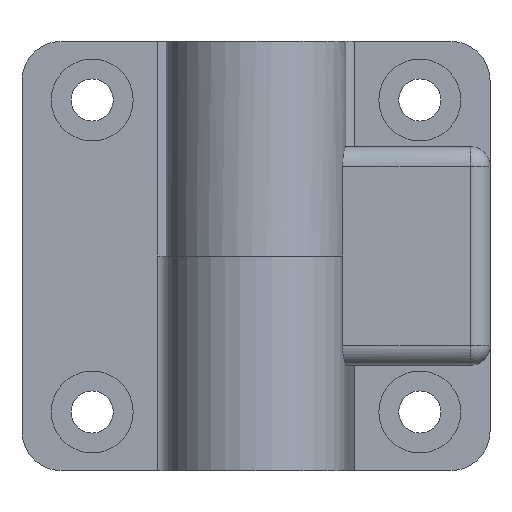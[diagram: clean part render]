
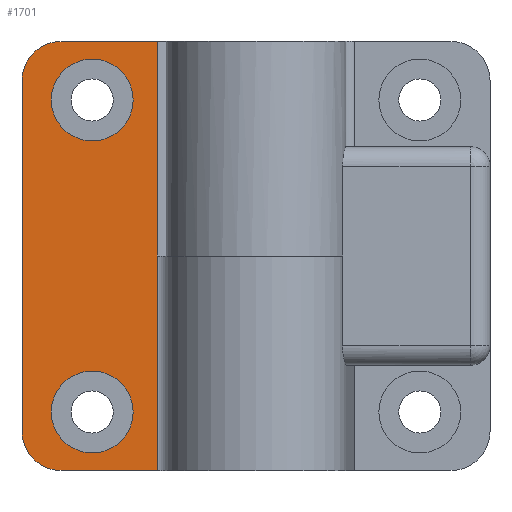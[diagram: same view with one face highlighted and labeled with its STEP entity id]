
A CAD part, front view. The second image highlights one B-rep face of the part: STEP entity #1701.
In plain terms, the highlighted planar face has unit normal (0, -1, 0).
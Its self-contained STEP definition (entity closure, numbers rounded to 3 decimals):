
#7 = EDGE_CURVE ( 'NONE', #1222, #2345, #1300, .T. ) ;
#22 = AXIS2_PLACEMENT_3D ( 'NONE', #2692, #2479, #622 ) ;
#64 = CIRCLE ( 'NONE', #2221, 5.25 ) ;
#89 = ORIENTED_EDGE ( 'NONE', *, *, #7, .T. ) ;
#97 = CARTESIAN_POINT ( 'NONE',  ( 21., 4.5, 14.75 ) ) ;
#145 = DIRECTION ( 'NONE',  ( 0., -1., 0. ) ) ;
#205 = CARTESIAN_POINT ( 'NONE',  ( 30., 4.5, -22.5 ) ) ;
#232 = CARTESIAN_POINT ( 'NONE',  ( 25., 4.5, 22.5 ) ) ;
#247 = DIRECTION ( 'NONE',  ( 0., 0., -1. ) ) ;
#296 = EDGE_CURVE ( 'NONE', #866, #1968, #2077, .T. ) ;
#298 = DIRECTION ( 'NONE',  ( 1., 0., 0. ) ) ;
#366 = DIRECTION ( 'NONE',  ( 0., 0., -1. ) ) ;
#371 = ORIENTED_EDGE ( 'NONE', *, *, #1317, .F. ) ;
#391 = EDGE_CURVE ( 'NONE', #866, #1243, #730, .T. ) ;
#447 = CIRCLE ( 'NONE', #2758, 5.25 ) ;
#457 = DIRECTION ( 'NONE',  ( 0., 0., 1. ) ) ;
#510 = VECTOR ( 'NONE', #2600, 1000. ) ;
#573 = PLANE ( 'NONE',  #22 ) ;
#583 = VERTEX_POINT ( 'NONE', #2508 ) ;
#622 = DIRECTION ( 'NONE',  ( 0., 0., 1. ) ) ;
#642 = DIRECTION ( 'NONE',  ( 0., -1., 0. ) ) ;
#650 = ORIENTED_EDGE ( 'NONE', *, *, #871, .T. ) ;
#678 = CARTESIAN_POINT ( 'NONE',  ( 21., 4.5, -20. ) ) ;
#698 = ORIENTED_EDGE ( 'NONE', *, *, #1369, .F. ) ;
#730 = LINE ( 'NONE', #760, #510 ) ;
#751 = VECTOR ( 'NONE', #366, 1000. ) ;
#760 = CARTESIAN_POINT ( 'NONE',  ( 30., 4.5, 27.5 ) ) ;
#763 = ORIENTED_EDGE ( 'NONE', *, *, #2235, .T. ) ;
#794 = FACE_BOUND ( 'NONE', #2683, .T. ) ;
#827 = CARTESIAN_POINT ( 'NONE',  ( 30., 4.5, 22.5 ) ) ;
#861 = AXIS2_PLACEMENT_3D ( 'NONE', #2732, #642, #1598 ) ;
#866 = VERTEX_POINT ( 'NONE', #827 ) ;
#871 = EDGE_CURVE ( 'NONE', #2345, #1406, #1972, .T. ) ;
#959 = DIRECTION ( 'NONE',  ( 0., -1., 0. ) ) ;
#1082 = DIRECTION ( 'NONE',  ( 0., -1., 0. ) ) ;
#1118 = ORIENTED_EDGE ( 'NONE', *, *, #1470, .F. ) ;
#1192 = AXIS2_PLACEMENT_3D ( 'NONE', #3013, #959, #247 ) ;
#1222 = VERTEX_POINT ( 'NONE', #2857 ) ;
#1243 = VERTEX_POINT ( 'NONE', #205 ) ;
#1250 = ORIENTED_EDGE ( 'NONE', *, *, #391, .F. ) ;
#1257 = CARTESIAN_POINT ( 'NONE',  ( 21., 4.5, 20. ) ) ;
#1266 = EDGE_LOOP ( 'NONE', ( #1250, #1552, #2606, #763, #89, #650, #1411 ) ) ;
#1276 = VERTEX_POINT ( 'NONE', #97 ) ;
#1299 = LINE ( 'NONE', #2673, #751 ) ;
#1300 = LINE ( 'NONE', #1961, #2957 ) ;
#1317 = EDGE_CURVE ( 'NONE', #583, #1276, #447, .T. ) ;
#1369 = EDGE_CURVE ( 'NONE', #2921, #2067, #2111, .T. ) ;
#1380 = CARTESIAN_POINT ( 'NONE',  ( 21., 4.5, -14.75 ) ) ;
#1406 = VERTEX_POINT ( 'NONE', #1751 ) ;
#1411 = ORIENTED_EDGE ( 'NONE', *, *, #2752, .T. ) ;
#1470 = EDGE_CURVE ( 'NONE', #2067, #2921, #64, .T. ) ;
#1525 = LINE ( 'NONE', #2184, #2112 ) ;
#1552 = ORIENTED_EDGE ( 'NONE', *, *, #296, .T. ) ;
#1598 = DIRECTION ( 'NONE',  ( 0., 0., 1. ) ) ;
#1606 = DIRECTION ( 'NONE',  ( 0., 0., -1. ) ) ;
#1687 = CARTESIAN_POINT ( 'NONE',  ( 30., 4.5, -27.5 ) ) ;
#1701 = ADVANCED_FACE ( 'NONE', ( #1979, #794, #1781 ), #573, .F. ) ;
#1751 = CARTESIAN_POINT ( 'NONE',  ( 25., 4.5, -27.5 ) ) ;
#1781 = FACE_OUTER_BOUND ( 'NONE', #1266, .T. ) ;
#1846 = DIRECTION ( 'NONE',  ( 0., -1., 0. ) ) ;
#1867 = DIRECTION ( 'NONE',  ( 0., -1., 0. ) ) ;
#1961 = CARTESIAN_POINT ( 'NONE',  ( 12.649, 4.5, 0. ) ) ;
#1968 = VERTEX_POINT ( 'NONE', #2779 ) ;
#1972 = LINE ( 'NONE', #1687, #2595 ) ;
#1979 = FACE_BOUND ( 'NONE', #2716, .T. ) ;
#2012 = DIRECTION ( 'NONE',  ( 0., 0., -1. ) ) ;
#2034 = CARTESIAN_POINT ( 'NONE',  ( 12.649, 4.5, -27.5 ) ) ;
#2067 = VERTEX_POINT ( 'NONE', #2567 ) ;
#2077 = CIRCLE ( 'NONE', #2806, 5. ) ;
#2111 = CIRCLE ( 'NONE', #2994, 5.25 ) ;
#2112 = VECTOR ( 'NONE', #2685, 1000. ) ;
#2184 = CARTESIAN_POINT ( 'NONE',  ( 30., 4.5, 27.5 ) ) ;
#2195 = DIRECTION ( 'NONE',  ( 0., 0., -1. ) ) ;
#2221 = AXIS2_PLACEMENT_3D ( 'NONE', #678, #1867, #1606 ) ;
#2235 = EDGE_CURVE ( 'NONE', #2671, #1222, #1299, .T. ) ;
#2239 = DIRECTION ( 'NONE',  ( 0., 0., -1. ) ) ;
#2345 = VERTEX_POINT ( 'NONE', #2034 ) ;
#2417 = CIRCLE ( 'NONE', #861, 5. ) ;
#2427 = CARTESIAN_POINT ( 'NONE',  ( 12.649, 4.5, 27.5 ) ) ;
#2479 = DIRECTION ( 'NONE',  ( 0., 1., 0. ) ) ;
#2508 = CARTESIAN_POINT ( 'NONE',  ( 21., 4.5, 25.25 ) ) ;
#2514 = CIRCLE ( 'NONE', #1192, 5.25 ) ;
#2567 = CARTESIAN_POINT ( 'NONE',  ( 21., 4.5, -25.25 ) ) ;
#2595 = VECTOR ( 'NONE', #298, 1000. ) ;
#2596 = ORIENTED_EDGE ( 'NONE', *, *, #3010, .F. ) ;
#2600 = DIRECTION ( 'NONE',  ( 0., 0., -1. ) ) ;
#2606 = ORIENTED_EDGE ( 'NONE', *, *, #2676, .F. ) ;
#2666 = CARTESIAN_POINT ( 'NONE',  ( 21., 4.5, -20. ) ) ;
#2671 = VERTEX_POINT ( 'NONE', #2427 ) ;
#2673 = CARTESIAN_POINT ( 'NONE',  ( 12.649, 4.5, 27.5 ) ) ;
#2676 = EDGE_CURVE ( 'NONE', #2671, #1968, #1525, .T. ) ;
#2683 = EDGE_LOOP ( 'NONE', ( #2596, #371 ) ) ;
#2685 = DIRECTION ( 'NONE',  ( 1., 0., 0. ) ) ;
#2692 = CARTESIAN_POINT ( 'NONE',  ( 30., 4.5, 27.5 ) ) ;
#2716 = EDGE_LOOP ( 'NONE', ( #1118, #698 ) ) ;
#2732 = CARTESIAN_POINT ( 'NONE',  ( 25., 4.5, -22.5 ) ) ;
#2752 = EDGE_CURVE ( 'NONE', #1406, #1243, #2417, .T. ) ;
#2758 = AXIS2_PLACEMENT_3D ( 'NONE', #1257, #1082, #2195 ) ;
#2779 = CARTESIAN_POINT ( 'NONE',  ( 25., 4.5, 27.5 ) ) ;
#2806 = AXIS2_PLACEMENT_3D ( 'NONE', #232, #1846, #457 ) ;
#2857 = CARTESIAN_POINT ( 'NONE',  ( 12.649, 4.5, 0. ) ) ;
#2921 = VERTEX_POINT ( 'NONE', #1380 ) ;
#2957 = VECTOR ( 'NONE', #2239, 1000. ) ;
#2994 = AXIS2_PLACEMENT_3D ( 'NONE', #2666, #145, #2012 ) ;
#3010 = EDGE_CURVE ( 'NONE', #1276, #583, #2514, .T. ) ;
#3013 = CARTESIAN_POINT ( 'NONE',  ( 21., 4.5, 20. ) ) ;
